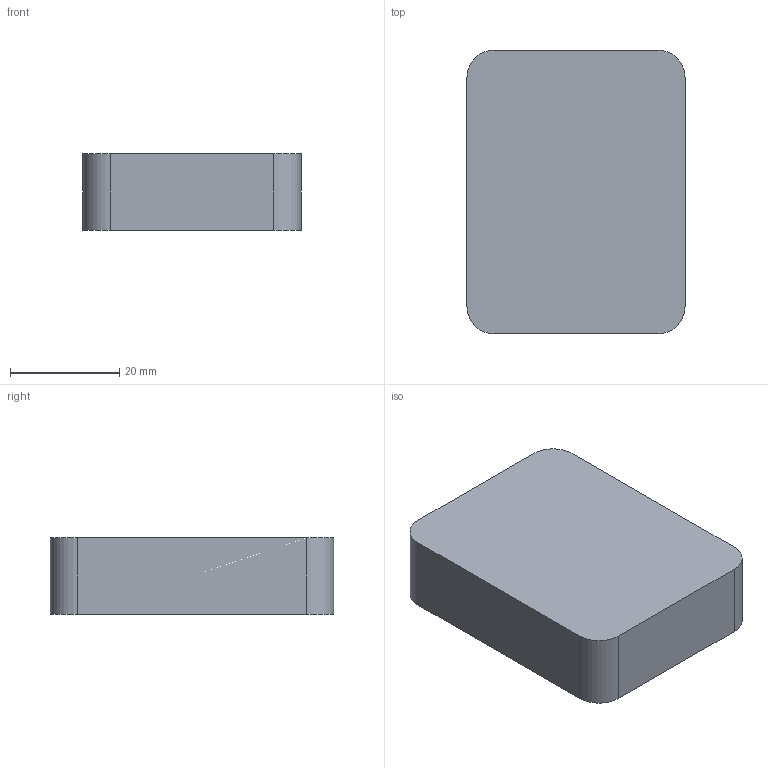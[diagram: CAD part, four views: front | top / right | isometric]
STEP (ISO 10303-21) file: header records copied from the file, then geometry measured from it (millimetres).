
FILE_DESCRIPTION(('Open CASCADE Model'),'2;1');
FILE_NAME('Open CASCADE Shape Model','2026-09-19T16:36:14',('Author'),( 'Open CASCADE'),'Open CASCADE STEP processor 7.8','Open CASCADE 7.8' ,'Unknown');
FILE_SCHEMA(('AUTOMOTIVE_DESIGN { 1 0 10303 214 1 1 1 1 }'));
Length unit declared in the file: millimetre
Products named in the file (1): Open CASCADE STEP translator 7.8 14
Bounding box: 40 x 52 x 14 mm (x, y, z)
Volume: 28819.6 mm3; surface area: 6572.9 mm2
Topology: 1 solids, 1 shells, 10 faces, 24 edges, 16 vertices
Faces by surface type: plane 6, cylinder 4
Entity records: 630 total; most frequent: CARTESIAN_POINT 123, DIRECTION 98, LINE 56, VECTOR 56, ORIENTED_EDGE 48, PCURVE 48, DEFINITIONAL_REPRESENTATION 48, EDGE_CURVE 24
